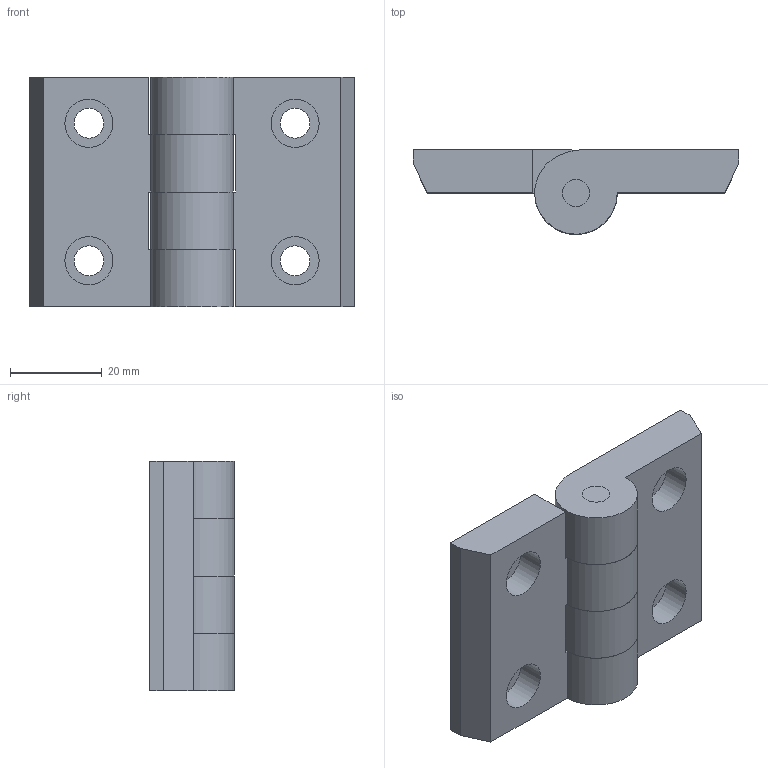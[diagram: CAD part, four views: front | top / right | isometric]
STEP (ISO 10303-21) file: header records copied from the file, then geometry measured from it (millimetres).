
FILE_DESCRIPTION((''),'2;1');
FILE_NAME('E:\catalogue and flyer\Profile catalogue 2015\Accessories ACC info\Accessories ACC step file 31Mar16\ACC-H7150-10.stp','2016-04-07T13:36:43',('h029'),(''),'Autodesk Inventor 11','Autodesk Inventor 11','');
FILE_SCHEMA(('AUTOMOTIVE_DESIGN { 1 0 10303 214 1 1 1 1 }'));
Length unit declared in the file: millimetre
Products named in the file (3): ACC-H7150-10; hinge 7150 part 1; pin
Assembly tree (3 placements, depth 2):
  ACC-H7150-10
    hinge 7150 part 1  x2
    pin
Bounding box: 71 x 18.49 x 50 mm (x, y, z)
Volume: 35083.4 mm3; surface area: 14629.6 mm2
Topology: 3 solids, 3 shells, 53 faces, 129 edges, 86 vertices
Faces by surface type: plane 28, cylinder 13, bspline 12
Full cylindrical faces by diameter (mm): 6 x5
Entity records: 929 total; most frequent: CARTESIAN_POINT 211, DIRECTION 137, ORIENTED_EDGE 118, EDGE_CURVE 59, AXIS2_PLACEMENT_3D 50, EDGE_LOOP 45, VERTEX_POINT 44, VECTOR 37
